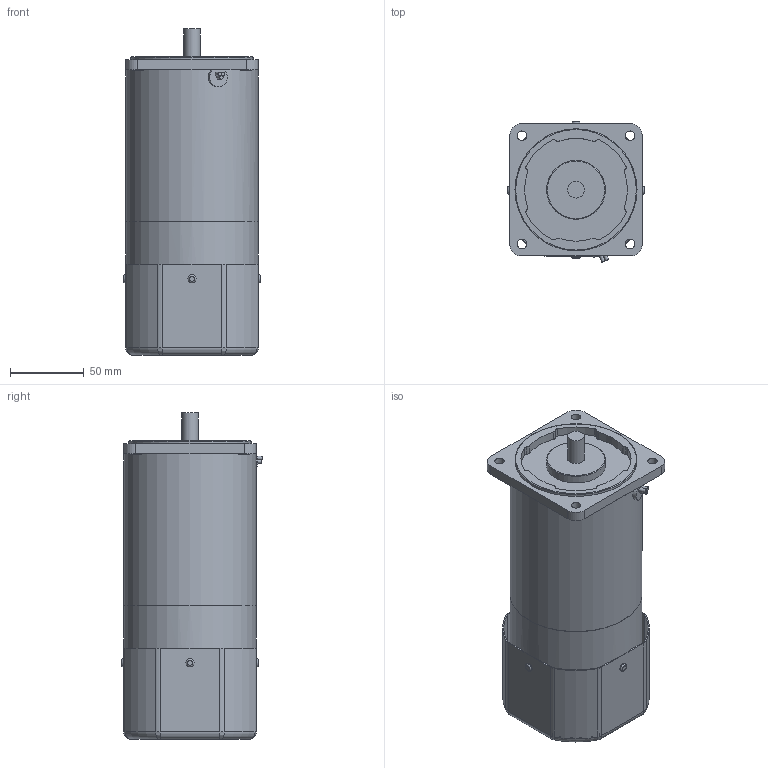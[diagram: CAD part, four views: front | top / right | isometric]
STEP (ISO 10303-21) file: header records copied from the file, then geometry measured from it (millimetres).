
FILE_DESCRIPTION((''),'2;1');
FILE_NAME('E:\2공장-도면\3D\표준형 3D(민규)\step file\D\K9RP60Fㅁ-D.stp','2014-11-17T11:04:43',('AHN'),(''),'Autodesk Inventor 2012','Autodesk Inventor 2012','');
FILE_SCHEMA(('CONFIG_CONTROL_DESIGN'));
Length unit declared in the file: millimetre
Products named in the file (1): K9RP60Fㅁ-D
Bounding box: 93 x 95.71 x 222 mm (x, y, z)
Volume: 1202887.4 mm3; surface area: 115145.6 mm2
Topology: 1 solids, 1 shells, 240 faces, 591 edges, 359 vertices
Faces by surface type: cylinder 125, plane 69, torus 38, bspline 8
Full cylindrical faces by diameter (mm): 5.5 x4, 6.5 x4, 8 x4, 11.3 x1, 40 x1, 83 x1, 89.8 x1, 90 x2
Entity records: 7742 total; most frequent: CARTESIAN_POINT 2031, DIRECTION 1235, ORIENTED_EDGE 1128, EDGE_CURVE 564, AXIS2_PLACEMENT_3D 495, VERTEX_POINT 356, EDGE_LOOP 311, CIRCLE 262
